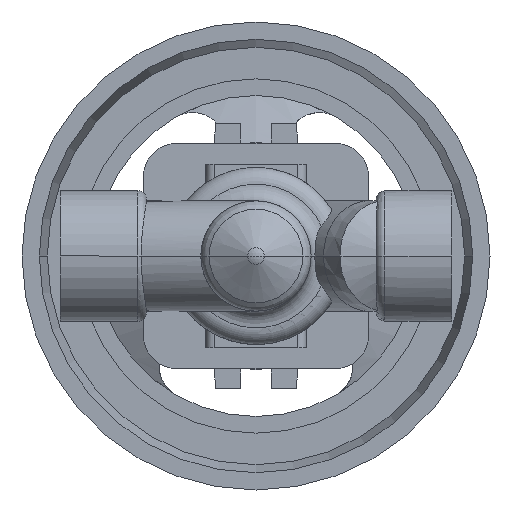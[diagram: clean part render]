
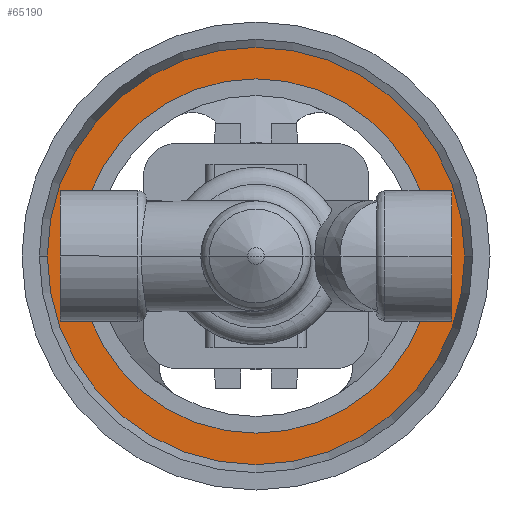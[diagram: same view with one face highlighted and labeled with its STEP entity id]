
A CAD part, front view. The second image highlights one B-rep face of the part: STEP entity #65190.
In plain terms, the highlighted planar face has unit normal (0, -1, 0).
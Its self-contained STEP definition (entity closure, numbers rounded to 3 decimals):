
#64640=CARTESIAN_POINT('',(120.912,239.,0.));
#64650=VERTEX_POINT('',#64640);
#64680=CARTESIAN_POINT('',(58.5,239.,0.));
#64690=DIRECTION('',(0.,1.,0.));
#64700=DIRECTION('',(-1.,0.,0.));
#64710=AXIS2_PLACEMENT_3D('',#64680,#64690,#64700);
#64720=CIRCLE('',#64710,62.412);
#64730=CARTESIAN_POINT('',(-3.912,239.,0.));
#64740=VERTEX_POINT('',#64730);
#64750=EDGE_CURVE('',#64740,#64650,#64720,.T.);
#64940=CARTESIAN_POINT('',(0.794,239.,0.))
;
#64950=DIRECTION('',(0.,-1.,0.));
#64960=DIRECTION('',(1.,0.,0.));
#64970=AXIS2_PLACEMENT_3D('',#64940,#64950,#64960);
#64980=PLANE('',#64970);
#64990=EDGE_CURVE('',#64650,#64740,#64720,.T.);
#65000=ORIENTED_EDGE('',*,*,#64990,.F.);
#65010=ORIENTED_EDGE('',*,*,#64750,.F.);
#65020=EDGE_LOOP('',(#65010,#65000));
#65030=FACE_OUTER_BOUND('',#65020,.T.);
#65040=CARTESIAN_POINT('',(58.5,239.,0.));
#65050=DIRECTION('',(0.,1.,0.));
#65060=DIRECTION('',(-1.,0.,0.));
#65070=AXIS2_PLACEMENT_3D('',#65040,#65050,#65060);
#65080=CIRCLE('',#65070,53.);
#65090=CARTESIAN_POINT('',(111.5,239.,0.));
#65100=VERTEX_POINT('',#65090);
#65110=CARTESIAN_POINT('',(5.5,239.,0.));
#65120=VERTEX_POINT('',#65110);
#65130=EDGE_CURVE('',#65100,#65120,#65080,.T.);
#65140=ORIENTED_EDGE('',*,*,#65130,.T.);
#65150=EDGE_CURVE('',#65120,#65100,#65080,.T.);
#65160=ORIENTED_EDGE('',*,*,#65150,.T.);
#65170=EDGE_LOOP('',(#65160,#65140));
#65180=FACE_BOUND('',#65170,.T.);
#65190=ADVANCED_FACE('',(#65030,#65180),#64980,.T.);
